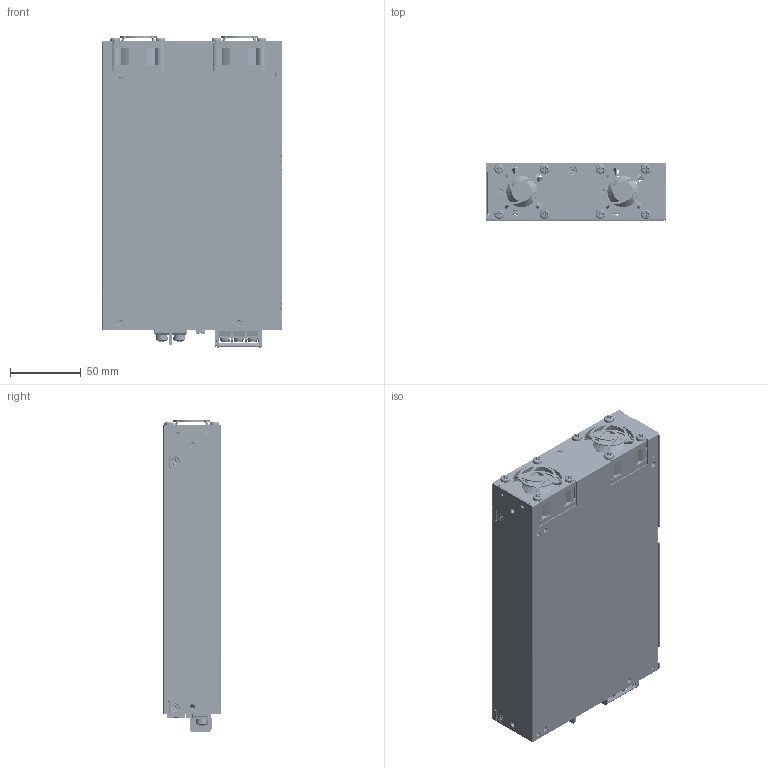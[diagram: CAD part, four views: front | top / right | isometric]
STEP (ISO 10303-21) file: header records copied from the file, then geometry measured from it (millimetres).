
FILE_DESCRIPTION (( 'STEP AP214' ), '1' );
FILE_NAME ('PMS-24V(48V)1K2W1BTD_20250217.STEP', '2025-02-17T01:37:00', ( '' ), ( '' ), 'SwSTEP 2.0', 'SolidWorks 2020', '' );
FILE_SCHEMA (( 'AUTOMOTIVE_DESIGN' ));
Length unit declared in the file: millimetre
Products named in the file (72): C87_1_1_1; TDC-587_1-50563_1_1; C112_1_1_1; INSULATOR3_1_1_1; KBJ2506__BD1__1_1_1_1; M3X9_1_1_1; PLASTIC_1_1_1; D10_1_1_1; INSULATOR_8_1_1_1; 878331421_1_1_1; HSK4_1-170715_1_1; TDC-585_1-243755_1_1; TDC-588_PCB_1_1_1; HEX_NUT_STYLE_1_GRADEAB_DIN_H_1; FAN_40X40X20_1_1_1; HSK3_1-166735_1_1; 3620479111_2_1_1_1; 朴5_FLAT_WASHER_1_1_1; BRACKET_3421267000_1_1_1; STANDOFF_M3X4_1_1_1; C313_C304_1_1_1; CH1_1_1_1; HSK_3_1_1_1; C303_1_1_1; 878331025_1_1_1; HSK_4_1_1_1; OUT_TERMINAL_1_1_1; INSULATOR_10_1_1_1; HSK2_1-158538_1_1; DT-5C-B84W-03_1_1_1; Q5_Q6_1_1_1; C5_C6_C15_1_1_1; INSULATOR4_1_1_1; HSK_2_1_1_1; CHASSIS_1_1-398849_1_1; PIN001_1_1_1; A2008WR0-4P_1_1_1; TDC-588_1_1_1; 3620479111_1_1_1_1; A2003WR0-1BX26PA-6T_1_1_1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
Assembly tree (161 placements, depth 5):
  PMS-24V(48V)1K2W1BTD_20250217
    CH1_1_1_1
      PWB_1100W_1_1_1
      TDC-587_1-50563_1_1
        TDC-587_1-50553_1_1
        A2008WR0-4P_1_1_1  x2
        878331025_1_1_1
        878331421_1_1_1
        A2003WR0-1BX26PA-6T_1_1_1
      DT-5C-B84W-03_1_1_1
      C112_1_1_1  x6
      C117_1_1_1
      C5_C6_C15_1_1_1  x3
      CY_1_1_1  x8
      OUT_TERMINAL_1_1_1  x2
      HSK_1_1_1_1
        HSK1_1-149010_1_1
          HSK1_1-149000_1_1
          PIN001_1_1_1
          PIN004_1_1_1
        KBJ2506__BD1__1_1_1_1  x2
        HEX_NUT_STYLE_1_GRADEAB_DIN_H_1  x2
        M3X9_1_1_1  x2
      HSK_2_1_1_1
        HSK2_1-158538_1_1
          HSK2_1-158528_1_1
          PIN001_1_1_1
          PIN004_1_1_1
        Q3_Q4_1_1_1  x2
        D10_1_1_1  x2
        HEX_NUT_STYLE_1_GRADEAB_DIN_H_1  x4
        CAP_3244081600_1_1_1  x2
        BRACKET_3421267000_1_1_1  x2
      HSK_3_1_1_1
        HSK3_1-166744_1_1
          HSK3_1-166735_1_1
          PIN001_1_1_1  x2
        Q3_Q4_1_1_1  x2
        D10_1_1_1  x2
        M3X9_1_1_1  x4
        HEX_NUT_STYLE_1_GRADEAB_DIN_H_1  x4
      HSK_4_1_1_1
        HSK4_1-170727_1_1
          HSK4_1-170715_1_1
          PIN001_1_1_1  x2
        Q102_Q101_D101_1_1_1  x4
        M3X9_1_1_1  x4
        HEX_NUT_STYLE_1_GRADEAB_DIN_H_1  x4
      INSULATOR_7_1_1_1
      INSULATOR_8_1_1_1
      Q5_Q6_1_1_1
      Z1_1_1_1
      F401_1_1_1
      C313_C304_1_1_1  x2
      C87_1_1_1  x4
      C303_1_1_1
      TDC-588_1_1_1
        TDC-588_PCB_1_1_1
      Q102_Q101_D101_1_1_1
      TDC-585_1-243764_1_1
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Bounding box: 127 x 40.5 x 219.7 mm (x, y, z)
Surface area: 454757.8 mm2 (no closed solid volume)
Topology: 0 solids, 9311 shells, 9331 faces, 48228 edges, 48169 vertices
Faces by surface type: plane 5333, cylinder 2669, bspline 827, cone 490, torus 12
Entity records: 446853 total; most frequent: CARTESIAN_POINT 208417, DIRECTION 41206, ORIENTED_EDGE 32854, VERTEX_POINT 32689, EDGE_CURVE 32689, LINE 20858, VECTOR 20858, AXIS2_PLACEMENT_3D 10174
